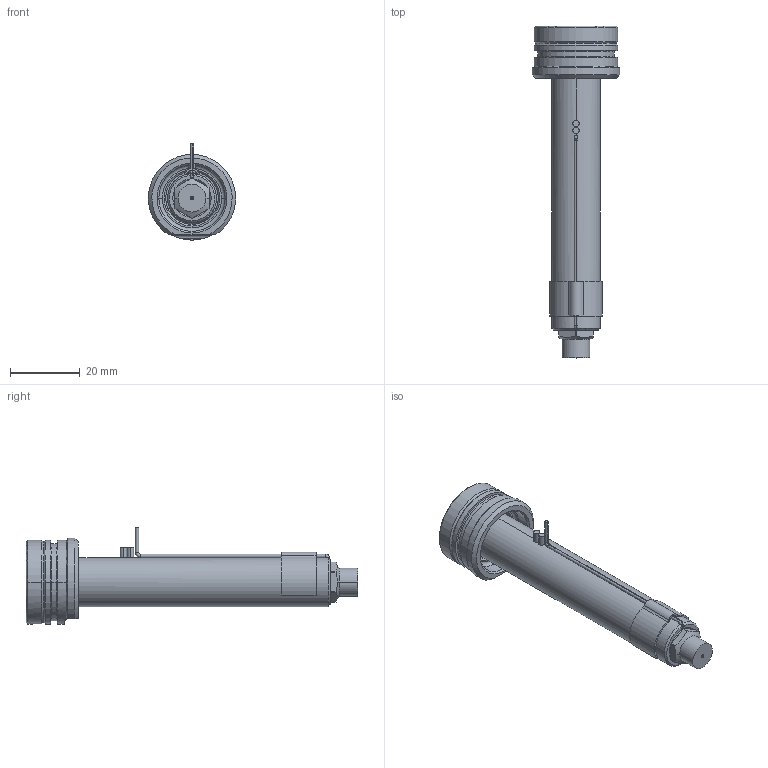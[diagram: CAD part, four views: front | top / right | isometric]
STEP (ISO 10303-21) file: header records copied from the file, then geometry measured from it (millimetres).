
FILE_DESCRIPTION((''),'2;1');
FILE_NAME('EO04_PG-FB_STD_080_SW','2024-02-19T11:21:18',('sundharh'),(''),'CREO PARAMETRIC BY PTC INC, 2023154','CREO PARAMETRIC BY PTC INC, 2023154','');
FILE_SCHEMA(('CONFIG_CONTROL_DESIGN'));
Length unit declared in the file: millimetre
Products named in the file (1): EO04_PG-FB_STD_080_SW
Bounding box: 24.99 x 95 x 27.5 mm (x, y, z)
Volume: 16610.2 mm3; surface area: 8695.2 mm2
Topology: 2 solids, 2 shells, 223 faces, 599 edges, 366 vertices
Faces by surface type: cylinder 84, plane 59, cone 44, torus 22, bspline 11, sphere 3
Entity records: 8189 total; most frequent: CARTESIAN_POINT 2557, DIRECTION 1225, ORIENTED_EDGE 1182, EDGE_CURVE 591, AXIS2_PLACEMENT_3D 514, VERTEX_POINT 366, CIRCLE 302, EDGE_LOOP 239
